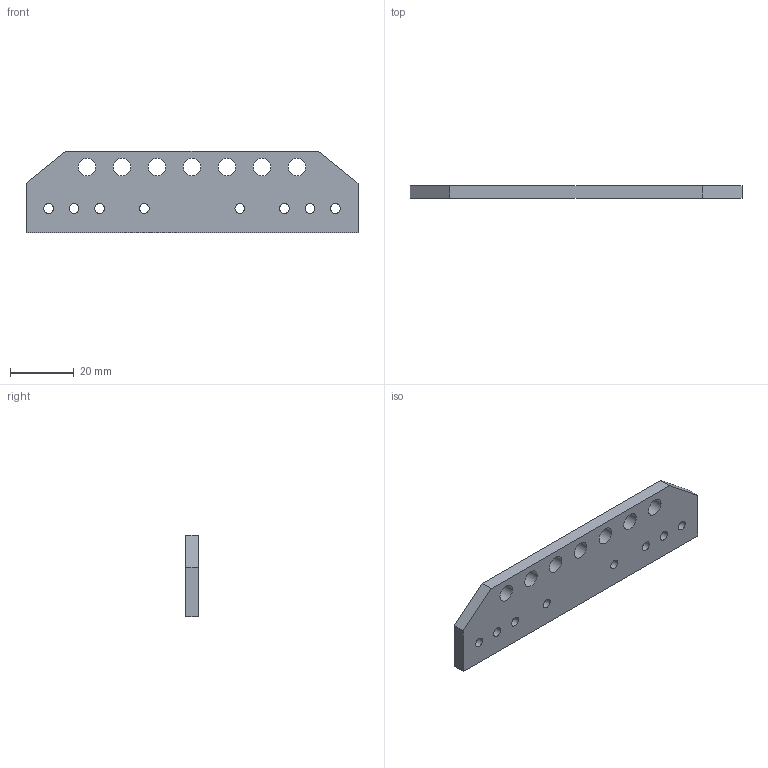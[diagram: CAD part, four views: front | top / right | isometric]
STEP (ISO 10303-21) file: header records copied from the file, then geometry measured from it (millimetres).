
FILE_DESCRIPTION(/* description */ ('STEP AP242 Edition 2','CAx-IF Rec.Pracs.---Representation and Presentation of Product Manufacturing Information (PMI)---4.0---2014-10-13','CAx-IF Rec.Pracs.---3D Tessellated Geometry---0.4---2014-09-14','2;1','CAx-IF Rec.Pracs.---User Defined Attributes---1.5---2016-08-15'),/* implementation_level */ '2;1');
FILE_NAME(/* name */ 'Assem2h - Part6 - CopyBH',/* time_stamp */ '2025-12-01T14:50:28Z',/* author */ (''),/* organization */ (''),/* preprocessor_version */ 'ST-DEVELOPER v20',/* originating_system */ 'ONSHAPE BY PTC INC, 1.207',/* authorisation */ ' ');
FILE_SCHEMA (('AP242_MANAGED_MODEL_BASED_3D_ENGINEERING_MIM_LF { 1 0 10303 442 3 1 4 }'));
Length unit declared in the file: metre
Products named in the file (1): Part6 - CopyBH
Bounding box: 104.25 x 4 x 25.62 mm (x, y, z)
Volume: 9285.6 mm3; surface area: 6420.1 mm2
Topology: 1 solids, 1 shells, 23 faces, 63 edges, 42 vertices
Faces by surface type: cylinder 15, plane 8
Full cylindrical faces by diameter (mm): 3.048 x8, 5.5 x7
Entity records: 766 total; most frequent: DIRECTION 126, CARTESIAN_POINT 114, ORIENTED_EDGE 96, EDGE_LOOP 68, FACE_BOUND 68, AXIS2_PLACEMENT_3D 54, EDGE_CURVE 48, VERTEX_POINT 42
